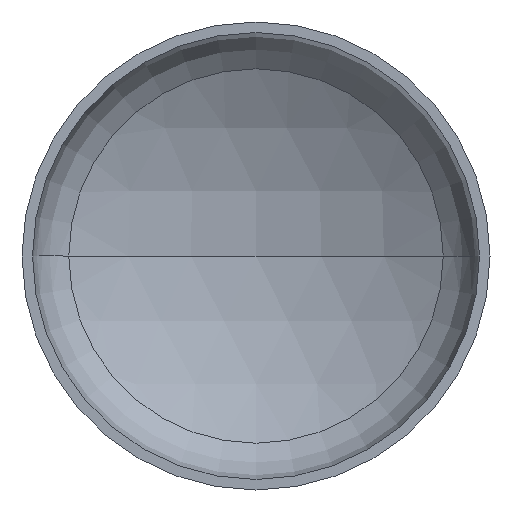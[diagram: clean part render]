
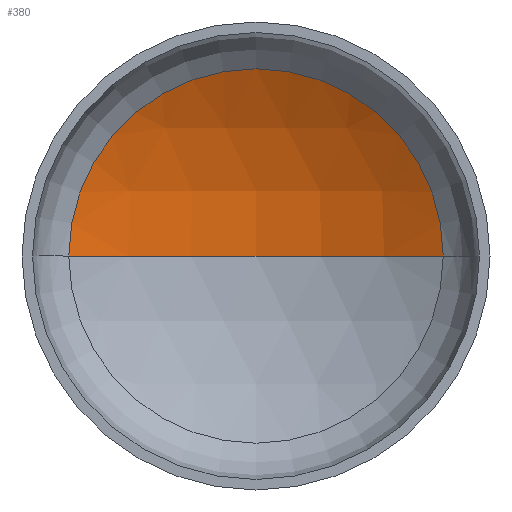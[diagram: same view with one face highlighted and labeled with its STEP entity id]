
A CAD part, front view. The second image highlights one B-rep face of the part: STEP entity #380.
In plain terms, the highlighted spherical face has radius 1600 mm.
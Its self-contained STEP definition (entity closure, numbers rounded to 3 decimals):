
#1 = VERTEX_POINT ( 'NONE', #260 ) ;
#8 = VERTEX_POINT ( 'NONE', #259 ) ;
#9 = AXIS2_PLACEMENT_3D ( 'NONE', #141, #144, #343 ) ;
#16 = AXIS2_PLACEMENT_3D ( 'NONE', #163, #391, #289 ) ;
#30 = AXIS2_PLACEMENT_3D ( 'NONE', #366, #222, #387 ) ;
#31 = ORIENTED_EDGE ( 'NONE', *, *, #356, .T. ) ;
#64 = VERTEX_POINT ( 'NONE', #295 ) ;
#69 = ORIENTED_EDGE ( 'NONE', *, *, #367, .T. ) ;
#75 = ORIENTED_EDGE ( 'NONE', *, *, #342, .F. ) ;
#110 = DIRECTION ( 'NONE',  ( 0., 0., -1. ) ) ;
#141 = CARTESIAN_POINT ( 'NONE',  ( 0., -977.173, 0. ) ) ;
#143 = CIRCLE ( 'NONE', #16, 800. ) ;
#144 = DIRECTION ( 'NONE',  ( 0., 0., -1. ) ) ;
#149 = CARTESIAN_POINT ( 'NONE',  ( 0., -977.173, 0. ) ) ;
#153 = EDGE_LOOP ( 'NONE', ( #75, #69, #31 ) ) ;
#163 = CARTESIAN_POINT ( 'NONE',  ( 0., 408.468, 0. ) ) ;
#182 = AXIS2_PLACEMENT_3D ( 'NONE', #149, #110, #200 ) ;
#199 = CIRCLE ( 'NONE', #9, 1600. ) ;
#200 = DIRECTION ( 'NONE',  ( -1., 0., 0. ) ) ;
#222 = DIRECTION ( 'NONE',  ( 0., 0., 1. ) ) ;
#259 = CARTESIAN_POINT ( 'NONE',  ( -800., 408.468, 0. ) ) ;
#260 = CARTESIAN_POINT ( 'NONE',  ( 0., 622.827, 0. ) ) ;
#272 = SPHERICAL_SURFACE ( 'NONE', #182, 1600. ) ;
#289 = DIRECTION ( 'NONE',  ( 1., 0., 0. ) ) ;
#295 = CARTESIAN_POINT ( 'NONE',  ( 800., 408.468, 0. ) ) ;
#342 = EDGE_CURVE ( 'NONE', #1, #8, #405, .T. ) ;
#343 = DIRECTION ( 'NONE',  ( -1., 0., 0. ) ) ;
#356 = EDGE_CURVE ( 'NONE', #64, #8, #143, .T. ) ;
#366 = CARTESIAN_POINT ( 'NONE',  ( 0., -977.173, 0. ) ) ;
#367 = EDGE_CURVE ( 'NONE', #1, #64, #199, .T. ) ;
#380 = ADVANCED_FACE ( 'NONE', ( #393 ), #272, .F. ) ;
#387 = DIRECTION ( 'NONE',  ( 1., 0., 0. ) ) ;
#391 = DIRECTION ( 'NONE',  ( 0., -1., 0. ) ) ;
#393 = FACE_OUTER_BOUND ( 'NONE', #153, .T. ) ;
#405 = CIRCLE ( 'NONE', #30, 1600. ) ;
